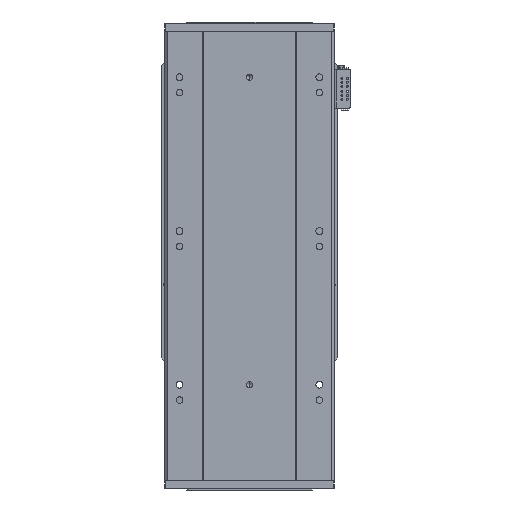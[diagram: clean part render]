
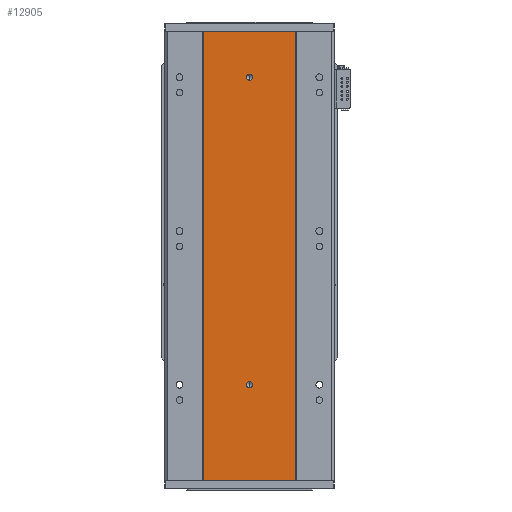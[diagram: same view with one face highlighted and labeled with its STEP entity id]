
A CAD part, front view. The second image highlights one B-rep face of the part: STEP entity #12905.
In plain terms, the highlighted planar face has unit normal (0, -1, 0).
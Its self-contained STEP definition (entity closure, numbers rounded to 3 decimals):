
#510 = AXIS2_PLACEMENT_3D ( 'NONE', #32952, #8045, #28866 ) ;
#601 = CARTESIAN_POINT ( 'NONE',  ( -60., 0., 585. ) ) ;
#1616 = DIRECTION ( 'NONE',  ( 0., -1., 0. ) ) ;
#2610 = CIRCLE ( 'NONE', #16111, 4. ) ;
#3793 = EDGE_LOOP ( 'NONE', ( #8856, #5814 ) ) ;
#4569 = DIRECTION ( 'NONE',  ( 0., 0., -1. ) ) ;
#4617 = EDGE_CURVE ( 'NONE', #19980, #24281, #2610, .T. ) ;
#5712 = EDGE_CURVE ( 'NONE', #34307, #24930, #19923, .T. ) ;
#5814 = ORIENTED_EDGE ( 'NONE', *, *, #4617, .F. ) ;
#6142 = EDGE_CURVE ( 'NONE', #13704, #51252, #13909, .T. ) ;
#8045 = DIRECTION ( 'NONE',  ( 0., -1., 0. ) ) ;
#8100 = ORIENTED_EDGE ( 'NONE', *, *, #5712, .T. ) ;
#8395 = VECTOR ( 'NONE', #40168, 1000. ) ;
#8599 = VECTOR ( 'NONE', #44004, 1000. ) ;
#8856 = ORIENTED_EDGE ( 'NONE', *, *, #38718, .F. ) ;
#10715 = ORIENTED_EDGE ( 'NONE', *, *, #30993, .F. ) ;
#10860 = VERTEX_POINT ( 'NONE', #27066 ) ;
#11451 = DIRECTION ( 'NONE',  ( 0., 1., 0. ) ) ;
#11583 = DIRECTION ( 'NONE',  ( 0., 0., 1. ) ) ;
#11861 = DIRECTION ( 'NONE',  ( 0., -1., 0. ) ) ;
#11873 = VECTOR ( 'NONE', #22021, 1000. ) ;
#12343 = EDGE_LOOP ( 'NONE', ( #54547, #21663 ) ) ;
#12905 = ADVANCED_FACE ( 'NONE', ( #38115, #24889, #26832 ), #27674, .F. ) ;
#13584 = AXIS2_PLACEMENT_3D ( 'NONE', #29346, #46753, #4569 ) ;
#13704 = VERTEX_POINT ( 'NONE', #40635 ) ;
#13909 = CIRCLE ( 'NONE', #36129, 4. ) ;
#14308 = CARTESIAN_POINT ( 'NONE',  ( 0., 0., 125. ) ) ;
#16111 = AXIS2_PLACEMENT_3D ( 'NONE', #14308, #1616, #48260 ) ;
#16566 = CIRCLE ( 'NONE', #13584, 4. ) ;
#18298 = EDGE_CURVE ( 'NONE', #19416, #34307, #46296, .T. ) ;
#19041 = CARTESIAN_POINT ( 'NONE',  ( -60., 0., 0. ) ) ;
#19416 = VERTEX_POINT ( 'NONE', #44725 ) ;
#19653 = CARTESIAN_POINT ( 'NONE',  ( 0., 0., 525. ) ) ;
#19923 = LINE ( 'NONE', #52771, #8599 ) ;
#19980 = VERTEX_POINT ( 'NONE', #28906 ) ;
#20409 = DIRECTION ( 'NONE',  ( 0., 0., -1. ) ) ;
#21213 = CARTESIAN_POINT ( 'NONE',  ( 0., 0., 121. ) ) ;
#21663 = ORIENTED_EDGE ( 'NONE', *, *, #35787, .F. ) ;
#22021 = DIRECTION ( 'NONE',  ( 1., 0., 0. ) ) ;
#22267 = CARTESIAN_POINT ( 'NONE',  ( -60., 0., 585. ) ) ;
#24281 = VERTEX_POINT ( 'NONE', #21213 ) ;
#24889 = FACE_BOUND ( 'NONE', #3793, .T. ) ;
#24930 = VERTEX_POINT ( 'NONE', #35759 ) ;
#26832 = FACE_OUTER_BOUND ( 'NONE', #40922, .T. ) ;
#27066 = CARTESIAN_POINT ( 'NONE',  ( 60., 0., 585. ) ) ;
#27266 = ORIENTED_EDGE ( 'NONE', *, *, #48533, .F. ) ;
#27674 = PLANE ( 'NONE',  #36688 ) ;
#28866 = DIRECTION ( 'NONE',  ( 0., 0., -1. ) ) ;
#28906 = CARTESIAN_POINT ( 'NONE',  ( 0., 0., 129. ) ) ;
#29346 = CARTESIAN_POINT ( 'NONE',  ( 0., 0., 525. ) ) ;
#30917 = DIRECTION ( 'NONE',  ( 0., 0., -1. ) ) ;
#30975 = CIRCLE ( 'NONE', #510, 4. ) ;
#30993 = EDGE_CURVE ( 'NONE', #10860, #24930, #52806, .T. ) ;
#31449 = CARTESIAN_POINT ( 'NONE',  ( 60., 0., 585. ) ) ;
#32052 = CARTESIAN_POINT ( 'NONE',  ( 0., 0., 529. ) ) ;
#32873 = VECTOR ( 'NONE', #30917, 1000. ) ;
#32952 = CARTESIAN_POINT ( 'NONE',  ( 0., 0., 125. ) ) ;
#33404 = ORIENTED_EDGE ( 'NONE', *, *, #18298, .T. ) ;
#34307 = VERTEX_POINT ( 'NONE', #19041 ) ;
#35759 = CARTESIAN_POINT ( 'NONE',  ( 60., 0., 0. ) ) ;
#35787 = EDGE_CURVE ( 'NONE', #51252, #13704, #16566, .T. ) ;
#36129 = AXIS2_PLACEMENT_3D ( 'NONE', #19653, #11861, #20409 ) ;
#36688 = AXIS2_PLACEMENT_3D ( 'NONE', #22267, #11451, #11583 ) ;
#38115 = FACE_BOUND ( 'NONE', #12343, .T. ) ;
#38718 = EDGE_CURVE ( 'NONE', #24281, #19980, #30975, .T. ) ;
#39624 = CARTESIAN_POINT ( 'NONE',  ( -60., 0., 585. ) ) ;
#40168 = DIRECTION ( 'NONE',  ( 0., 0., -1. ) ) ;
#40635 = CARTESIAN_POINT ( 'NONE',  ( 0., 0., 521. ) ) ;
#40922 = EDGE_LOOP ( 'NONE', ( #8100, #10715, #27266, #33404 ) ) ;
#44004 = DIRECTION ( 'NONE',  ( 1., 0., 0. ) ) ;
#44725 = CARTESIAN_POINT ( 'NONE',  ( -60., 0., 585. ) ) ;
#45745 = LINE ( 'NONE', #601, #11873 ) ;
#46296 = LINE ( 'NONE', #39624, #8395 ) ;
#46753 = DIRECTION ( 'NONE',  ( 0., -1., 0. ) ) ;
#48260 = DIRECTION ( 'NONE',  ( 0., 0., -1. ) ) ;
#48533 = EDGE_CURVE ( 'NONE', #19416, #10860, #45745, .T. ) ;
#51252 = VERTEX_POINT ( 'NONE', #32052 ) ;
#52771 = CARTESIAN_POINT ( 'NONE',  ( -60., 0., 0. ) ) ;
#52806 = LINE ( 'NONE', #31449, #32873 ) ;
#54547 = ORIENTED_EDGE ( 'NONE', *, *, #6142, .F. ) ;
